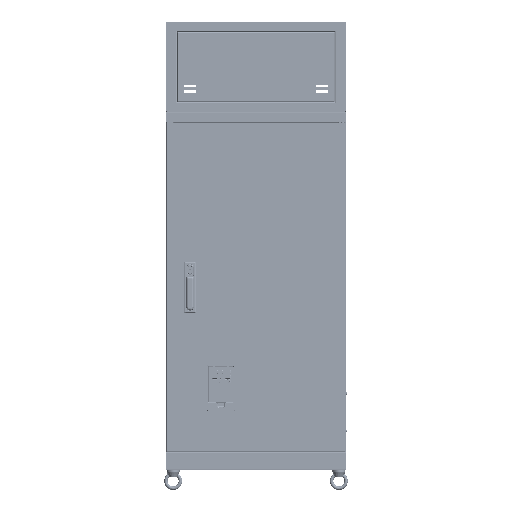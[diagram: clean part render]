
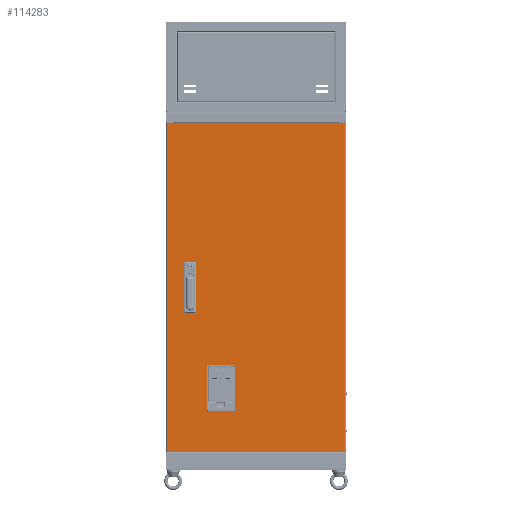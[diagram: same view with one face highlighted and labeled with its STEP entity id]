
A CAD part, front view. The second image highlights one B-rep face of the part: STEP entity #114283.
In plain terms, the highlighted planar face has unit normal (0, -1, 0).
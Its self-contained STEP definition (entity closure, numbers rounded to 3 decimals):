
#112183=DIRECTION('',(1.,0.,0.));
#112184=VECTOR('',#112183,496.);
#112185=CARTESIAN_POINT('',(-250.,-4.,-1054.));
#112186=LINE('',#112185,#112184);
#112190=DIRECTION('',(0.,0.,-1.));
#112191=VECTOR('',#112190,108.);
#112192=CARTESIAN_POINT('',(-200.,-4.,-543.));
#112193=LINE('',#112192,#112191);
#112197=CARTESIAN_POINT('',(-186.,-4.,-651.));
#112198=DIRECTION('',(0.,-1.,0.));
#112199=DIRECTION('',(-1.,0.,0.));
#112200=AXIS2_PLACEMENT_3D('',#112197,#112198,#112199);
#112205=DIRECTION('',(0.,0.,1.));
#112206=VECTOR('',#112205,108.);
#112207=CARTESIAN_POINT('',(-172.,-4.,-651.));
#112208=LINE('',#112207,#112206);
#112212=CARTESIAN_POINT('',(-186.,-4.,-543.));
#112213=DIRECTION('',(0.,-1.,0.));
#112214=DIRECTION('',(1.,0.,0.));
#112215=AXIS2_PLACEMENT_3D('',#112212,#112213,#112214);
#112220=DIRECTION('',(1.,0.,0.));
#112221=VECTOR('',#112220,74.6);
#112222=CARTESIAN_POINT('',(-136.6,-4.,-934.5));
#112223=LINE('',#112222,#112221);
#112227=DIRECTION('',(0.,0.,1.));
#112228=VECTOR('',#112227,119.5);
#112229=CARTESIAN_POINT('',(-62.,-4.,-934.5));
#112230=LINE('',#112229,#112228);
#112234=DIRECTION('',(-1.,0.,0.));
#112235=VECTOR('',#112234,74.6);
#112236=CARTESIAN_POINT('',(-62.,-4.,-815.));
#112237=LINE('',#112236,#112235);
#112241=DIRECTION('',(0.,0.,-1.));
#112242=VECTOR('',#112241,119.5);
#112243=CARTESIAN_POINT('',(-136.6,-4.,-815.));
#112244=LINE('',#112243,#112242);
#112255=DIRECTION('',(-1.,0.,0.));
#112256=VECTOR('',#112255,496.);
#112257=CARTESIAN_POINT('',(246.,-4.,-140.));
#112258=LINE('',#112257,#112256);
#112431=DIRECTION('',(0.,0.,-1.));
#112432=VECTOR('',#112431,914.);
#112433=CARTESIAN_POINT('',(-250.,-4.,-140.));
#112434=LINE('',#112433,#112432);
#112640=DIRECTION('',(0.,0.,1.));
#112641=VECTOR('',#112640,914.);
#112642=CARTESIAN_POINT('',(246.,-4.,-1054.));
#112643=LINE('',#112642,#112641);
#113666=CARTESIAN_POINT('',(-250.,-4.,-1054.));
#113667=VERTEX_POINT('',#113666);
#113670=CARTESIAN_POINT('',(246.,-4.,-1054.));
#113671=VERTEX_POINT('',#113670);
#113672=CARTESIAN_POINT('',(246.,-4.,-140.));
#113673=CARTESIAN_POINT('',(-250.,-4.,-140.));
#113674=VERTEX_POINT('',#113672);
#113675=VERTEX_POINT('',#113673);
#113676=CARTESIAN_POINT('',(-200.,-4.,-543.));
#113677=CARTESIAN_POINT('',(-200.,-4.,-651.));
#113678=VERTEX_POINT('',#113676);
#113679=VERTEX_POINT('',#113677);
#113680=CARTESIAN_POINT('',(-172.,-4.,-651.));
#113681=VERTEX_POINT('',#113680);
#113682=CARTESIAN_POINT('',(-172.,-4.,-543.));
#113683=VERTEX_POINT('',#113682);
#113684=CARTESIAN_POINT('',(-136.6,-4.,-934.5));
#113685=CARTESIAN_POINT('',(-62.,-4.,-934.5));
#113686=VERTEX_POINT('',#113684);
#113687=VERTEX_POINT('',#113685);
#113688=CARTESIAN_POINT('',(-62.,-4.,-815.));
#113689=VERTEX_POINT('',#113688);
#113690=CARTESIAN_POINT('',(-136.6,-4.,-815.));
#113691=VERTEX_POINT('',#113690);
#114249=CARTESIAN_POINT('',(-2.,-4.,-597.));
#114250=DIRECTION('',(0.,-1.,0.));
#114251=DIRECTION('',(-1.,0.,0.));
#114252=AXIS2_PLACEMENT_3D('',#114249,#114250,#114251);
#114253=PLANE('',#114252);
#114255=ORIENTED_EDGE('',*,*,#114254,.F.);
#114257=ORIENTED_EDGE('',*,*,#114256,.F.);
#114258=ORIENTED_EDGE('',*,*,#114235,.F.);
#114260=ORIENTED_EDGE('',*,*,#114259,.F.);
#114261=EDGE_LOOP('',(#114255,#114257,#114258,#114260));
#114262=FACE_OUTER_BOUND('',#114261,.F.);
#114264=ORIENTED_EDGE('',*,*,#114263,.T.);
#114266=ORIENTED_EDGE('',*,*,#114265,.T.);
#114268=ORIENTED_EDGE('',*,*,#114267,.T.);
#114270=ORIENTED_EDGE('',*,*,#114269,.T.);
#114271=EDGE_LOOP('',(#114264,#114266,#114268,#114270));
#114272=FACE_BOUND('',#114271,.F.);
#114274=ORIENTED_EDGE('',*,*,#114273,.T.);
#114276=ORIENTED_EDGE('',*,*,#114275,.T.);
#114278=ORIENTED_EDGE('',*,*,#114277,.T.);
#114280=ORIENTED_EDGE('',*,*,#114279,.T.);
#114281=EDGE_LOOP('',(#114274,#114276,#114278,#114280));
#114282=FACE_BOUND('',#114281,.F.);
#112201=CIRCLE('',#112200,14.);
#112216=CIRCLE('',#112215,14.);
#114235=EDGE_CURVE('',#113667,#113671,#112186,.T.);
#114254=EDGE_CURVE('',#113674,#113675,#112258,.T.);
#114256=EDGE_CURVE('',#113671,#113674,#112643,.T.);
#114259=EDGE_CURVE('',#113675,#113667,#112434,.T.);
#114263=EDGE_CURVE('',#113678,#113679,#112193,.T.);
#114265=EDGE_CURVE('',#113679,#113681,#112201,.T.);
#114267=EDGE_CURVE('',#113681,#113683,#112208,.T.);
#114269=EDGE_CURVE('',#113683,#113678,#112216,.T.);
#114273=EDGE_CURVE('',#113686,#113687,#112223,.T.);
#114275=EDGE_CURVE('',#113687,#113689,#112230,.T.);
#114277=EDGE_CURVE('',#113689,#113691,#112237,.T.);
#114279=EDGE_CURVE('',#113691,#113686,#112244,.T.);
#114283=ADVANCED_FACE('',(#114262,#114272,#114282),#114253,.T.);
